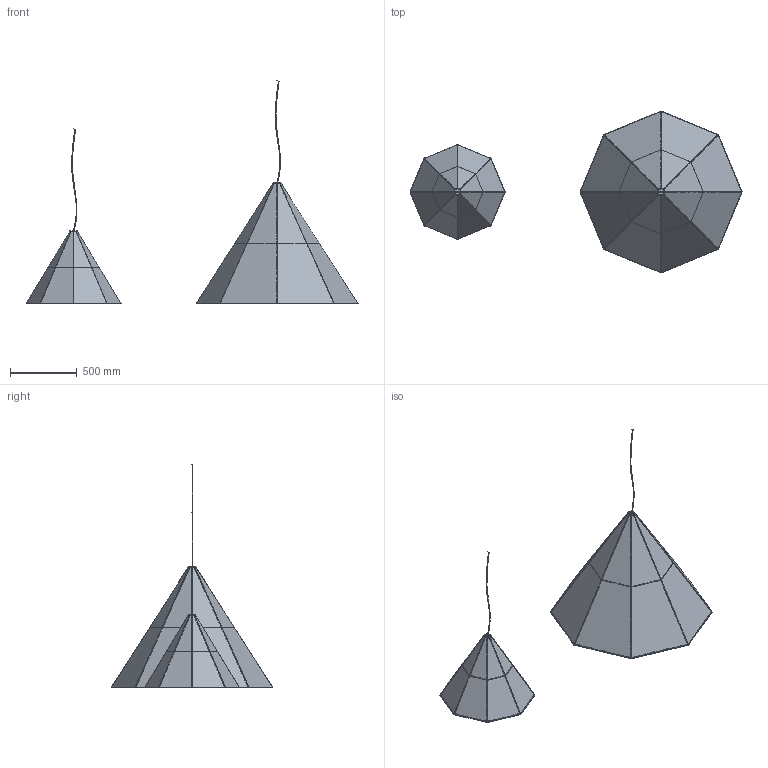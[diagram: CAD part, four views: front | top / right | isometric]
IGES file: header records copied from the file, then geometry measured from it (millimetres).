
Global section: file name: D:\Utente\Downloads\tip; native system: Rhinoceros ( Aug 11 2021 ); preprocessor: Trout Lake IGES 012 Aug 11 2021; date: 230705.080148; units: millimetre
Bounding box: 2483.94 x 1211.07 x 1674.52 mm (x, y, z)
Surface area: 5938930.5 mm2 (no closed solid volume)
Topology: 0 solids, 0 shells, 178 faces, 5702 edges, 5676 vertices
Faces by surface type: bspline 178
